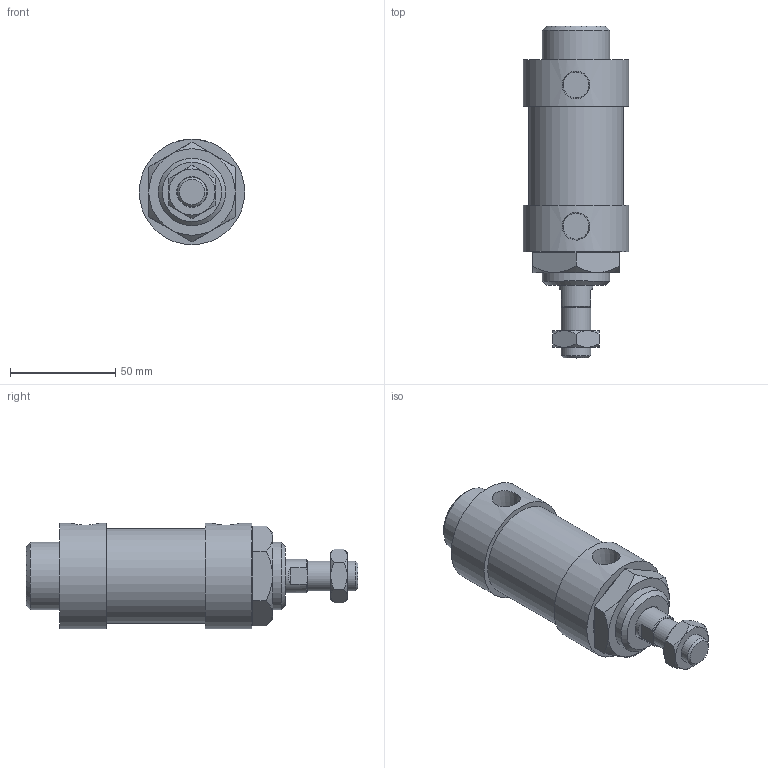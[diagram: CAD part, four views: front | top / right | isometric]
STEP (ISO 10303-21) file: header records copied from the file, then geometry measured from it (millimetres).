
FILE_DESCRIPTION(/* description */ ('Unknown'),/* implementation_level */ '2;1');
FILE_NAME(/* name */ 'WK40',/* time_stamp */ '2026-07-17T16:33:57+08:00',/* author */ ('Unknown'),/* organization */ ('Unknown'),/* preprocessor_version */ 'ST-DEVELOPER v16.7',/* originating_system */ 'DEX',/* authorisation */ $);
FILE_SCHEMA (('CONFIG_CONTROL_DESIGN'));
Length unit declared in the file: millimetre
Products named in the file (7): WK40; WK40_ｫe)); WK40_鋁; WK40_心軸活; WK40_後; M14-1.5P-8_螺; M32-2.0P-10_螺P
Assembly tree (6 placements, depth 2):
  WK40
    WK40_ｫe))
    WK40_鋁
    WK40_心軸活
    WK40_後
    M14-1.5P-8_螺
    M32-2.0P-10_螺P
Bounding box: 50 x 157.5 x 50 mm (x, y, z)
Volume: 202319.7 mm3; surface area: 51575.1 mm2
Topology: 6 solids, 6 shells, 80 faces, 167 edges, 106 vertices
Faces by surface type: plane 43, cone 22, cylinder 15
Full cylindrical faces by diameter (mm): 12.5 x1, 14 x1, 16 x2, 30 x1, 32 x2, 39.5 x1, 40 x1, 41 x1, 42 x2, 45 x1, 50 x2
Entity records: 2679 total; most frequent: CARTESIAN_POINT 489, DIRECTION 330, ORIENTED_EDGE 250, AXIS2_PLACEMENT_3D 148, EDGE_CURVE 125, EDGE_LOOP 124, FACE_BOUND 124, VERTEX_POINT 93
